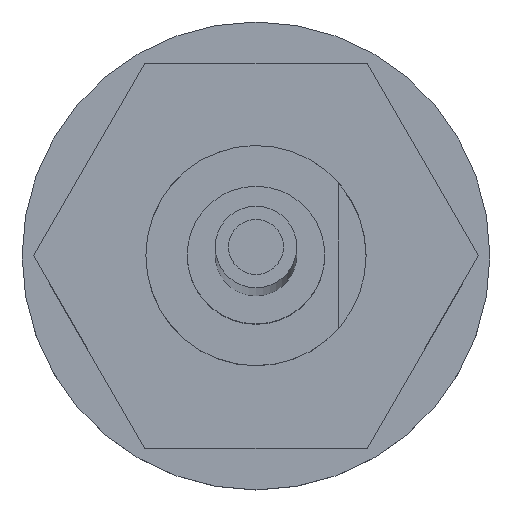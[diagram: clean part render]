
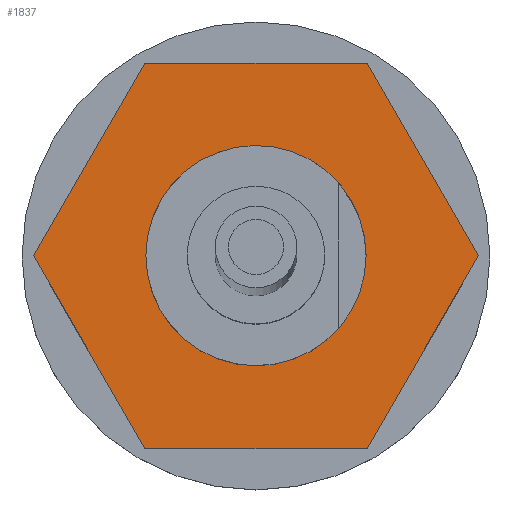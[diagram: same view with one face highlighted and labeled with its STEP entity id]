
A CAD part, top view. The second image highlights one B-rep face of the part: STEP entity #1837.
In plain terms, the highlighted planar face has unit normal (0, 0, 1) as drawn and (-1, 0, 0) by its records, which use the part's own axes.
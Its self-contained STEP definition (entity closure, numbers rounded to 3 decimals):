
#1182 = DIRECTION ( 'NONE',  ( 0., 0., 1. ) ) ;
#1183 = DIRECTION ( 'NONE',  ( -1., 0., 0. ) ) ;
#1184 = CARTESIAN_POINT ( 'NONE',  ( 91.1, 0., 0. ) ) ;
#1185 = AXIS2_PLACEMENT_3D ( 'NONE', #1184, #1183, #1182 ) ;
#1186 = CIRCLE ( 'NONE', #1185, 2. ) ;
#1403 = CARTESIAN_POINT ( 'NONE',  ( 91.1, 0., -2. ) ) ;
#1412 = LINE ( 'NONE', #1418, #1474 ) ;
#1418 = CARTESIAN_POINT ( 'NONE',  ( 91.1, 0., -4.041 ) ) ;
#1472 = CARTESIAN_POINT ( 'NONE',  ( 91.1, -3.5, -2.021 ) ) ;
#1473 = DIRECTION ( 'NONE',  ( 0., -0.866, 0.5 ) ) ;
#1474 = VECTOR ( 'NONE', #1473, 1000. ) ;
#1509 = CARTESIAN_POINT ( 'NONE',  ( 91.1, -3.5, 2.021 ) ) ;
#1515 = DIRECTION ( 'NONE',  ( 0., 0., 1. ) ) ;
#1516 = VECTOR ( 'NONE', #1515, 1000. ) ;
#1517 = CARTESIAN_POINT ( 'NONE',  ( 91.1, -3.5, -2.021 ) ) ;
#1518 = LINE ( 'NONE', #1517, #1516 ) ;
#1542 = CARTESIAN_POINT ( 'NONE',  ( 91.1, 0., 4.041 ) ) ;
#1543 = DIRECTION ( 'NONE',  ( 0., 0.866, 0.5 ) ) ;
#1544 = VECTOR ( 'NONE', #1543, 1000. ) ;
#1545 = CARTESIAN_POINT ( 'NONE',  ( 91.1, -3.5, 2.021 ) ) ;
#1546 = LINE ( 'NONE', #1545, #1544 ) ;
#1547 = CARTESIAN_POINT ( 'NONE',  ( 91.1, 0., 2. ) ) ;
#1553 = CARTESIAN_POINT ( 'NONE',  ( 91.1, 3.5, -2.021 ) ) ;
#1554 = DIRECTION ( 'NONE',  ( 0., -0.866, -0.5 ) ) ;
#1555 = VECTOR ( 'NONE', #1554, 1000. ) ;
#1556 = CARTESIAN_POINT ( 'NONE',  ( 91.1, 3.5, -2.021 ) ) ;
#1557 = LINE ( 'NONE', #1556, #1555 ) ;
#1558 = CARTESIAN_POINT ( 'NONE',  ( 91.1, 0., -4.041 ) ) ;
#1563 = DIRECTION ( 'NONE',  ( 0., 0., 1. ) ) ;
#1564 = DIRECTION ( 'NONE',  ( -1., 0., 0. ) ) ;
#1565 = CARTESIAN_POINT ( 'NONE',  ( 91.1, 0., -4.041 ) ) ;
#1566 = AXIS2_PLACEMENT_3D ( 'NONE', #1565, #1564, #1563 ) ;
#1567 = PLANE ( 'NONE',  #1566 ) ;
#1568 = FACE_BOUND ( 'NONE', #1869, .T. ) ;
#1574 = FACE_OUTER_BOUND ( 'NONE', #1836, .T. ) ;
#1582 = DIRECTION ( 'NONE',  ( 0., 0., -1. ) ) ;
#1583 = VECTOR ( 'NONE', #1582, 1000. ) ;
#1584 = CARTESIAN_POINT ( 'NONE',  ( 91.1, 3.5, 2.021 ) ) ;
#1585 = LINE ( 'NONE', #1584, #1583 ) ;
#1586 = DIRECTION ( 'NONE',  ( 0., 0., 1. ) ) ;
#1587 = DIRECTION ( 'NONE',  ( -1., 0., 0. ) ) ;
#1588 = CARTESIAN_POINT ( 'NONE',  ( 91.1, 0., 0. ) ) ;
#1589 = AXIS2_PLACEMENT_3D ( 'NONE', #1588, #1587, #1586 ) ;
#1590 = CIRCLE ( 'NONE', #1589, 2. ) ;
#1602 = DIRECTION ( 'NONE',  ( 0., 0.866, -0.5 ) ) ;
#1603 = VECTOR ( 'NONE', #1602, 1000. ) ;
#1604 = CARTESIAN_POINT ( 'NONE',  ( 91.1, 0., 4.041 ) ) ;
#1605 = LINE ( 'NONE', #1604, #1603 ) ;
#1606 = CARTESIAN_POINT ( 'NONE',  ( 91.1, 3.5, 2.021 ) ) ;
#1755 = VERTEX_POINT ( 'NONE', #1403 ) ;
#1756 = EDGE_CURVE ( 'NONE', #1755, #1848, #1186, .T. ) ;
#1758 = ORIENTED_EDGE ( 'NONE', *, *, #1826, .T. ) ;
#1766 = EDGE_CURVE ( 'NONE', #1839, #1767, #1412, .T. ) ;
#1767 = VERTEX_POINT ( 'NONE', #1472 ) ;
#1826 = EDGE_CURVE ( 'NONE', #1767, #1831, #1518, .T. ) ;
#1829 = ORIENTED_EDGE ( 'NONE', *, *, #1850, .T. ) ;
#1831 = VERTEX_POINT ( 'NONE', #1509 ) ;
#1836 = EDGE_LOOP ( 'NONE', ( #1844, #1840, #1758, #1829, #1851, #1854 ) ) ;
#1837 = ADVANCED_FACE ( 'NONE', ( #1574, #1568 ), #1567, .T. ) ;
#1839 = VERTEX_POINT ( 'NONE', #1558 ) ;
#1840 = ORIENTED_EDGE ( 'NONE', *, *, #1766, .T. ) ;
#1842 = EDGE_CURVE ( 'NONE', #1843, #1839, #1557, .T. ) ;
#1843 = VERTEX_POINT ( 'NONE', #1553 ) ;
#1844 = ORIENTED_EDGE ( 'NONE', *, *, #1842, .T. ) ;
#1848 = VERTEX_POINT ( 'NONE', #1547 ) ;
#1850 = EDGE_CURVE ( 'NONE', #1831, #1852, #1546, .T. ) ;
#1851 = ORIENTED_EDGE ( 'NONE', *, *, #1859, .T. ) ;
#1852 = VERTEX_POINT ( 'NONE', #1542 ) ;
#1854 = ORIENTED_EDGE ( 'NONE', *, *, #1864, .T. ) ;
#1856 = VERTEX_POINT ( 'NONE', #1606 ) ;
#1857 = ORIENTED_EDGE ( 'NONE', *, *, #1863, .F. ) ;
#1858 = ORIENTED_EDGE ( 'NONE', *, *, #1756, .F. ) ;
#1859 = EDGE_CURVE ( 'NONE', #1852, #1856, #1605, .T. ) ;
#1863 = EDGE_CURVE ( 'NONE', #1848, #1755, #1590, .T. ) ;
#1864 = EDGE_CURVE ( 'NONE', #1856, #1843, #1585, .T. ) ;
#1869 = EDGE_LOOP ( 'NONE', ( #1858, #1857 ) ) ;
